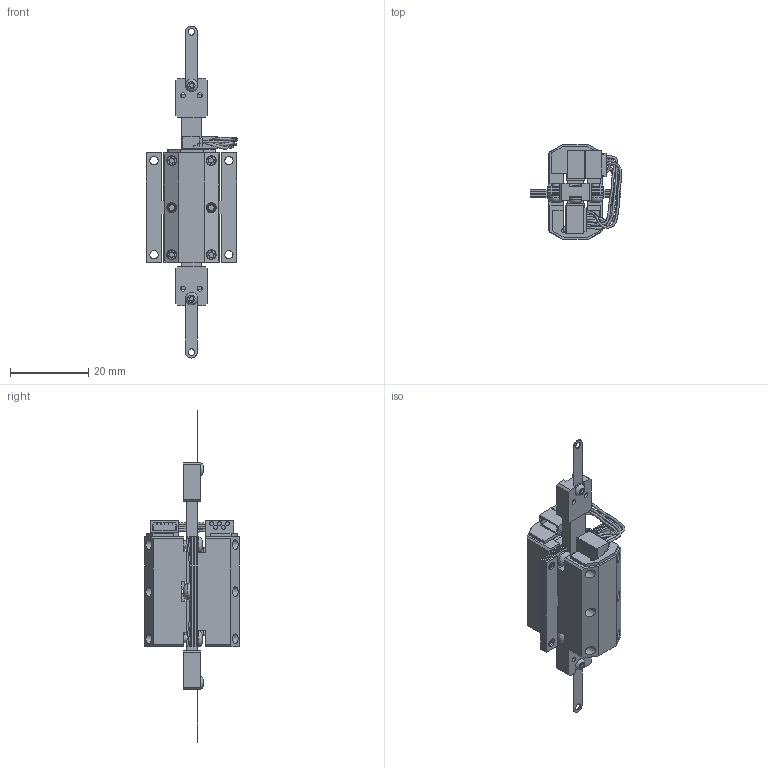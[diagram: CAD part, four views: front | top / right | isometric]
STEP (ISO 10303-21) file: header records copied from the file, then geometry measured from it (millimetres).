
FILE_DESCRIPTION (( 'STEP AP214' ), '1' );
FILE_NAME ('LT4050A-050E1A00-PiezoMotor.STEP', '2018-10-29T08:58:47', ( 'MagnusK' ), ( 'Microsoft' ), 'SwSTEP 2.0', 'SolidWorks 2017', '' );
FILE_SCHEMA (( 'AUTOMOTIVE_DESIGN' ));
Length unit declared in the file: millimetre
Products named in the file (3): LT4050A_DriveRod_050E1A00-PiezoMotor; LT4050A-xxxxxA00-PiezoMotor; LT4050A-050E1A00-PiezoMotor
Assembly tree (2 placements, depth 2):
  LT4050A-050E1A00-PiezoMotor
    LT4050A-xxxxxA00-PiezoMotor
    LT4050A_DriveRod_050E1A00-PiezoMotor
Bounding box: 23.37 x 24.18 x 84.7 mm (x, y, z)
Volume: 8457.2 mm3; surface area: 15146.1 mm2
Topology: 50 solids, 51 shells, 1397 faces, 3659 edges, 2382 vertices
Faces by surface type: plane 1063, cylinder 305, cone 16, torus 8, bspline 5
Full cylindrical faces by diameter (mm): 1 x10, 1.3 x5, 1.6 x3, 1.65 x4, 2 x12, 2.1 x30, 2.5 x12, 3.2 x1, 4 x6
Entity records: 45802 total; most frequent: CARTESIAN_POINT 8835, ORIENTED_EDGE 7026, DIRECTION 6927, EDGE_CURVE 3513, LINE 2869, VECTOR 2869, VERTEX_POINT 2348, AXIS2_PLACEMENT_3D 2029
